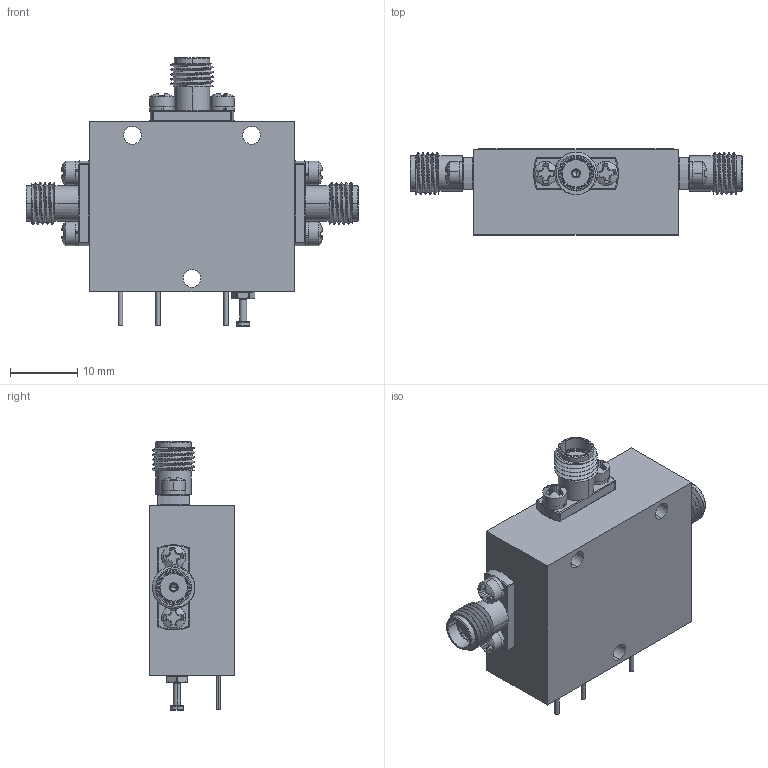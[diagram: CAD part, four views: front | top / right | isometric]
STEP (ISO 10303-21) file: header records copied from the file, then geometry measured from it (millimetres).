
FILE_DESCRIPTION (( 'STEP AP214' ), '1' );
FILE_NAME ('P2T-0R3G18G-80-T-55-SFF.STEP', '2025-04-09T17:22:08', ( '' ), ( '' ), 'SwSTEP 2.0', 'SolidWorks 2024', '' );
FILE_SCHEMA (( 'AUTOMOTIVE_DESIGN' ));
Length unit declared in the file: inch
Products named in the file (1): P2T-0R3G18G-80-T-55-SFF
Bounding box: 49.53 x 12.8 x 40.03 mm (x, y, z)
Volume: 10618.4 mm3; surface area: 6617.3 mm2
Topology: 31 solids, 31 shells, 936 faces, 3369 edges, 2652 vertices
Faces by surface type: plane 414, cylinder 231, torus 147, cone 63, sphere 63, bspline 18
Entity records: 53057 total; most frequent: CARTESIAN_POINT 17640, ORIENTED_EDGE 6642, DIRECTION 5331, EDGE_CURVE 3321, VERTEX_POINT 2652, AXIS2_PLACEMENT_3D 1917, VECTOR 1497, LINE 1497
